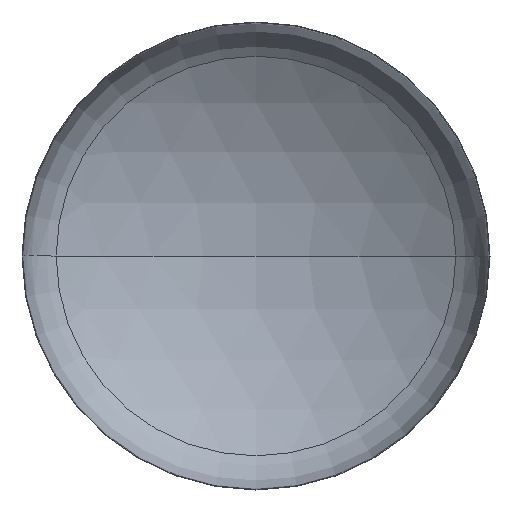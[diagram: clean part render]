
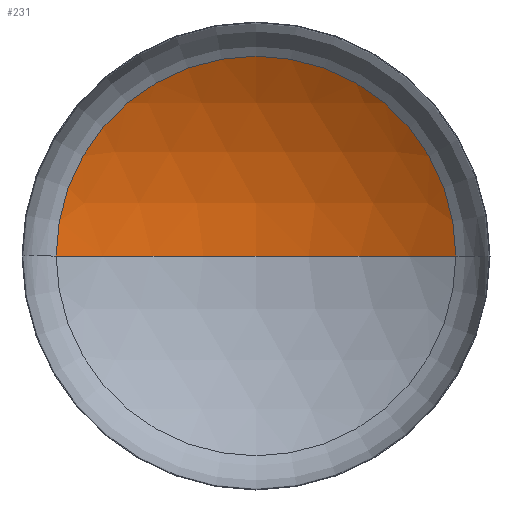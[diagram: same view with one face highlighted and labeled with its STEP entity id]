
A CAD part, front view. The second image highlights one B-rep face of the part: STEP entity #231.
In plain terms, the highlighted spherical face has radius 6000 mm.
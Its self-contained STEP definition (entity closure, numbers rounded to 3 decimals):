
#10 = DIRECTION ( 'NONE',  ( 0., 0., -1. ) ) ;
#14 = VERTEX_POINT ( 'NONE', #333 ) ;
#30 = AXIS2_PLACEMENT_3D ( 'NONE', #177, #10, #386 ) ;
#49 = AXIS2_PLACEMENT_3D ( 'NONE', #189, #190, #191 ) ;
#50 = AXIS2_PLACEMENT_3D ( 'NONE', #203, #210, #198 ) ;
#51 = AXIS2_PLACEMENT_3D ( 'NONE', #193, #286, #285 ) ;
#84 = EDGE_CURVE ( 'NONE', #107, #155, #230, .T. ) ;
#86 = EDGE_CURVE ( 'NONE', #14, #107, #130, .T. ) ;
#88 = EDGE_CURVE ( 'NONE', #14, #155, #342, .T. ) ;
#107 = VERTEX_POINT ( 'NONE', #199 ) ;
#121 = ORIENTED_EDGE ( 'NONE', *, *, #84, .T. ) ;
#130 = CIRCLE ( 'NONE', #50, 6000. ) ;
#135 = ORIENTED_EDGE ( 'NONE', *, *, #86, .T. ) ;
#151 = EDGE_LOOP ( 'NONE', ( #226, #135, #121 ) ) ;
#155 = VERTEX_POINT ( 'NONE', #219 ) ;
#177 = CARTESIAN_POINT ( 'NONE',  ( 0., -4067.149, 0. ) ) ;
#189 = CARTESIAN_POINT ( 'NONE',  ( 0., -4067.149, 0. ) ) ;
#190 = DIRECTION ( 'NONE',  ( 0., 0., 1. ) ) ;
#191 = DIRECTION ( 'NONE',  ( 1., 0., 0. ) ) ;
#193 = CARTESIAN_POINT ( 'NONE',  ( 0., 1006.72, 0. ) ) ;
#198 = DIRECTION ( 'NONE',  ( -1., 0., 0. ) ) ;
#199 = CARTESIAN_POINT ( 'NONE',  ( 3202.477, 1006.72, 0. ) ) ;
#203 = CARTESIAN_POINT ( 'NONE',  ( 0., -4067.149, 0. ) ) ;
#210 = DIRECTION ( 'NONE',  ( 0., 0., -1. ) ) ;
#219 = CARTESIAN_POINT ( 'NONE',  ( -3202.477, 1006.72, 0. ) ) ;
#226 = ORIENTED_EDGE ( 'NONE', *, *, #88, .F. ) ;
#230 = CIRCLE ( 'NONE', #51, 3202.477 ) ;
#231 = ADVANCED_FACE ( 'NONE', ( #269 ), #331, .F. ) ;
#269 = FACE_OUTER_BOUND ( 'NONE', #151, .T. ) ;
#285 = DIRECTION ( 'NONE',  ( 1., 0., 0. ) ) ;
#286 = DIRECTION ( 'NONE',  ( 0., -1., 0. ) ) ;
#331 = SPHERICAL_SURFACE ( 'NONE', #30, 6000. ) ;
#333 = CARTESIAN_POINT ( 'NONE',  ( 0., 1932.851, 0. ) ) ;
#342 = CIRCLE ( 'NONE', #49, 6000. ) ;
#386 = DIRECTION ( 'NONE',  ( -1., 0., 0. ) ) ;
